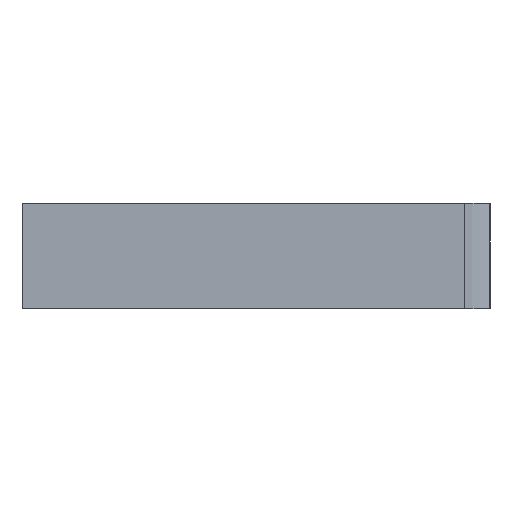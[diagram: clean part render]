
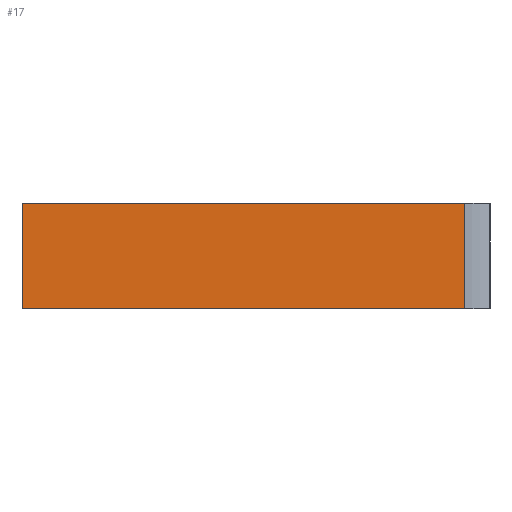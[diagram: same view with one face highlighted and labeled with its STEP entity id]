
A CAD part, left-side view. The second image highlights one B-rep face of the part: STEP entity #17.
In plain terms, the highlighted planar face has unit normal (-1, 0, 0).
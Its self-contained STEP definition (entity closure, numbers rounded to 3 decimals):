
#17 = ADVANCED_FACE('',(#18),#32,.F.);
#18 = FACE_BOUND('',#19,.F.);
#19 = EDGE_LOOP('',(#20,#55,#82,#110));
#20 = ORIENTED_EDGE('',*,*,#21,.F.);
#21 = EDGE_CURVE('',#22,#24,#26,.T.);
#22 = VERTEX_POINT('',#23);
#23 = CARTESIAN_POINT('',(-32.5,-42.127,10.4));
#24 = VERTEX_POINT('',#25);
#25 = CARTESIAN_POINT('',(-32.5,-27.,10.4));
#26 = SURFACE_CURVE('',#27,(#31,#43),.PCURVE_S1.);
#27 = LINE('',#28,#29);
#28 = CARTESIAN_POINT('',(-32.5,-43.,10.4));
#29 = VECTOR('',#30,1.);
#30 = DIRECTION('',(0.,1.,0.));
#31 = PCURVE('',#32,#37);
#32 = PLANE('',#33);
#33 = AXIS2_PLACEMENT_3D('',#34,#35,#36);
#34 = CARTESIAN_POINT('',(-32.5,-43.,6.8));
#35 = DIRECTION('',(1.,0.,0.));
#36 = DIRECTION('',(0.,0.,1.));
#37 = DEFINITIONAL_REPRESENTATION('',(#38),#42);
#38 = LINE('',#39,#40);
#39 = CARTESIAN_POINT('',(3.6,0.));
#40 = VECTOR('',#41,1.);
#41 = DIRECTION('',(0.,-1.));
#42 = ( GEOMETRIC_REPRESENTATION_CONTEXT(2) 
PARAMETRIC_REPRESENTATION_CONTEXT() REPRESENTATION_CONTEXT('2D SPACE',''
  ) );
#43 = PCURVE('',#44,#49);
#44 = PLANE('',#45);
#45 = AXIS2_PLACEMENT_3D('',#46,#47,#48);
#46 = CARTESIAN_POINT('',(-32.5,-43.,10.4));
#47 = DIRECTION('',(0.,0.,1.));
#48 = DIRECTION('',(1.,0.,-0.));
#49 = DEFINITIONAL_REPRESENTATION('',(#50),#54);
#50 = LINE('',#51,#52);
#51 = CARTESIAN_POINT('',(0.,0.));
#52 = VECTOR('',#53,1.);
#53 = DIRECTION('',(0.,1.));
#54 = ( GEOMETRIC_REPRESENTATION_CONTEXT(2) 
PARAMETRIC_REPRESENTATION_CONTEXT() REPRESENTATION_CONTEXT('2D SPACE',''
  ) );
#55 = ORIENTED_EDGE('',*,*,#56,.T.);
#56 = EDGE_CURVE('',#22,#57,#59,.T.);
#57 = VERTEX_POINT('',#58);
#58 = CARTESIAN_POINT('',(-32.5,-42.127,6.8));
#59 = SURFACE_CURVE('',#60,(#64,#71),.PCURVE_S1.);
#60 = LINE('',#61,#62);
#61 = CARTESIAN_POINT('',(-32.5,-42.127,5.3));
#62 = VECTOR('',#63,1.);
#63 = DIRECTION('',(-0.,-0.,-1.));
#64 = PCURVE('',#32,#65);
#65 = DEFINITIONAL_REPRESENTATION('',(#66),#70);
#66 = LINE('',#67,#68);
#67 = CARTESIAN_POINT('',(-1.5,-0.873));
#68 = VECTOR('',#69,1.);
#69 = DIRECTION('',(-1.,0.));
#70 = ( GEOMETRIC_REPRESENTATION_CONTEXT(2) 
PARAMETRIC_REPRESENTATION_CONTEXT() REPRESENTATION_CONTEXT('2D SPACE',''
  ) );
#71 = PCURVE('',#72,#77);
#72 = CYLINDRICAL_SURFACE('',#73,2.4);
#73 = AXIS2_PLACEMENT_3D('',#74,#75,#76);
#74 = CARTESIAN_POINT('',(-34.,-44.,5.3));
#75 = DIRECTION('',(-0.,-0.,-1.));
#76 = DIRECTION('',(1.,0.,0.));
#77 = DEFINITIONAL_REPRESENTATION('',(#78),#81);
#78 = B_SPLINE_CURVE_WITH_KNOTS('',1,(#79,#80),.UNSPECIFIED.,.F.,.F.,(2,
    2),(-5.1,-1.14),.PIECEWISE_BEZIER_KNOTS.);
#79 = CARTESIAN_POINT('',(5.388,-5.1));
#80 = CARTESIAN_POINT('',(5.388,-1.14));
#81 = ( GEOMETRIC_REPRESENTATION_CONTEXT(2) 
PARAMETRIC_REPRESENTATION_CONTEXT() REPRESENTATION_CONTEXT('2D SPACE',''
  ) );
#82 = ORIENTED_EDGE('',*,*,#83,.T.);
#83 = EDGE_CURVE('',#57,#84,#86,.T.);
#84 = VERTEX_POINT('',#85);
#85 = CARTESIAN_POINT('',(-32.5,-27.,6.8));
#86 = SURFACE_CURVE('',#87,(#91,#98),.PCURVE_S1.);
#87 = LINE('',#88,#89);
#88 = CARTESIAN_POINT('',(-32.5,-43.,6.8));
#89 = VECTOR('',#90,1.);
#90 = DIRECTION('',(0.,1.,0.));
#91 = PCURVE('',#32,#92);
#92 = DEFINITIONAL_REPRESENTATION('',(#93),#97);
#93 = LINE('',#94,#95);
#94 = CARTESIAN_POINT('',(0.,0.));
#95 = VECTOR('',#96,1.);
#96 = DIRECTION('',(0.,-1.));
#97 = ( GEOMETRIC_REPRESENTATION_CONTEXT(2) 
PARAMETRIC_REPRESENTATION_CONTEXT() REPRESENTATION_CONTEXT('2D SPACE',''
  ) );
#98 = PCURVE('',#99,#104);
#99 = PLANE('',#100);
#100 = AXIS2_PLACEMENT_3D('',#101,#102,#103);
#101 = CARTESIAN_POINT('',(-32.5,-43.,6.8));
#102 = DIRECTION('',(0.,0.,1.));
#103 = DIRECTION('',(1.,0.,-0.));
#104 = DEFINITIONAL_REPRESENTATION('',(#105),#109);
#105 = LINE('',#106,#107);
#106 = CARTESIAN_POINT('',(0.,0.));
#107 = VECTOR('',#108,1.);
#108 = DIRECTION('',(0.,1.));
#109 = ( GEOMETRIC_REPRESENTATION_CONTEXT(2) 
PARAMETRIC_REPRESENTATION_CONTEXT() REPRESENTATION_CONTEXT('2D SPACE',''
  ) );
#110 = ORIENTED_EDGE('',*,*,#111,.T.);
#111 = EDGE_CURVE('',#84,#24,#112,.T.);
#112 = SURFACE_CURVE('',#113,(#117,#124),.PCURVE_S1.);
#113 = LINE('',#114,#115);
#114 = CARTESIAN_POINT('',(-32.5,-27.,6.8));
#115 = VECTOR('',#116,1.);
#116 = DIRECTION('',(0.,0.,1.));
#117 = PCURVE('',#32,#118);
#118 = DEFINITIONAL_REPRESENTATION('',(#119),#123);
#119 = LINE('',#120,#121);
#120 = CARTESIAN_POINT('',(0.,-16.));
#121 = VECTOR('',#122,1.);
#122 = DIRECTION('',(1.,0.));
#123 = ( GEOMETRIC_REPRESENTATION_CONTEXT(2) 
PARAMETRIC_REPRESENTATION_CONTEXT() REPRESENTATION_CONTEXT('2D SPACE',''
  ) );
#124 = PCURVE('',#125,#130);
#125 = PLANE('',#126);
#126 = AXIS2_PLACEMENT_3D('',#127,#128,#129);
#127 = CARTESIAN_POINT('',(-32.5,-27.,6.8));
#128 = DIRECTION('',(0.,1.,0.));
#129 = DIRECTION('',(0.,-0.,1.));
#130 = DEFINITIONAL_REPRESENTATION('',(#131),#135);
#131 = LINE('',#132,#133);
#132 = CARTESIAN_POINT('',(0.,0.));
#133 = VECTOR('',#134,1.);
#134 = DIRECTION('',(1.,0.));
#135 = ( GEOMETRIC_REPRESENTATION_CONTEXT(2) 
PARAMETRIC_REPRESENTATION_CONTEXT() REPRESENTATION_CONTEXT('2D SPACE',''
  ) );
